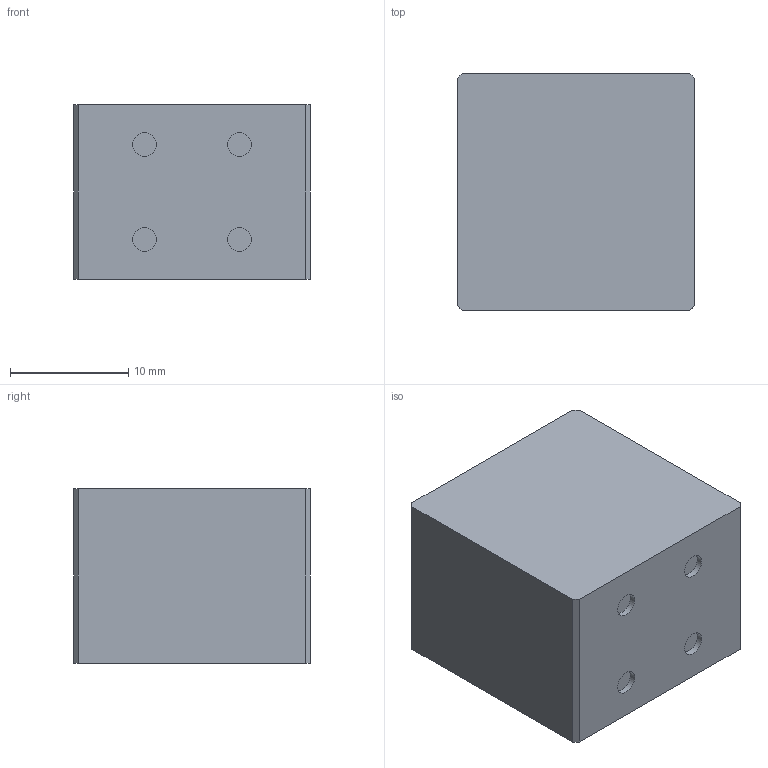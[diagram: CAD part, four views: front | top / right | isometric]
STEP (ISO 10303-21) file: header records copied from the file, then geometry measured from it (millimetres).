
FILE_DESCRIPTION(('Open CASCADE Model'),'2;1');
FILE_NAME('Open CASCADE Shape Model','2026-08-23T08:04:37',('Author'),( 'Open CASCADE'),'Open CASCADE STEP processor 7.9','Open CASCADE 7.9' ,'Unknown');
FILE_SCHEMA(('AUTOMOTIVE_DESIGN { 1 0 10303 214 1 1 1 1 }'));
Length unit declared in the file: millimetre
Products named in the file (2): =>[0:1:1:2]; COMPOUND
Assembly tree (1 placements, depth 2):
  =>[0:1:1:2]
    COMPOUND
Bounding box: 20 x 20 x 14.75 mm (x, y, z)
Volume: 5889 mm3; surface area: 1978.1 mm2
Topology: 1 solids, 1 shells, 18 faces, 36 edges, 24 vertices
Faces by surface type: plane 14, cylinder 4
Full cylindrical faces by diameter (mm): 2 x4
Entity records: 992 total; most frequent: CARTESIAN_POINT 176, DIRECTION 152, LINE 92, VECTOR 92, ORIENTED_EDGE 72, PCURVE 72, DEFINITIONAL_REPRESENTATION 72, EDGE_CURVE 36
